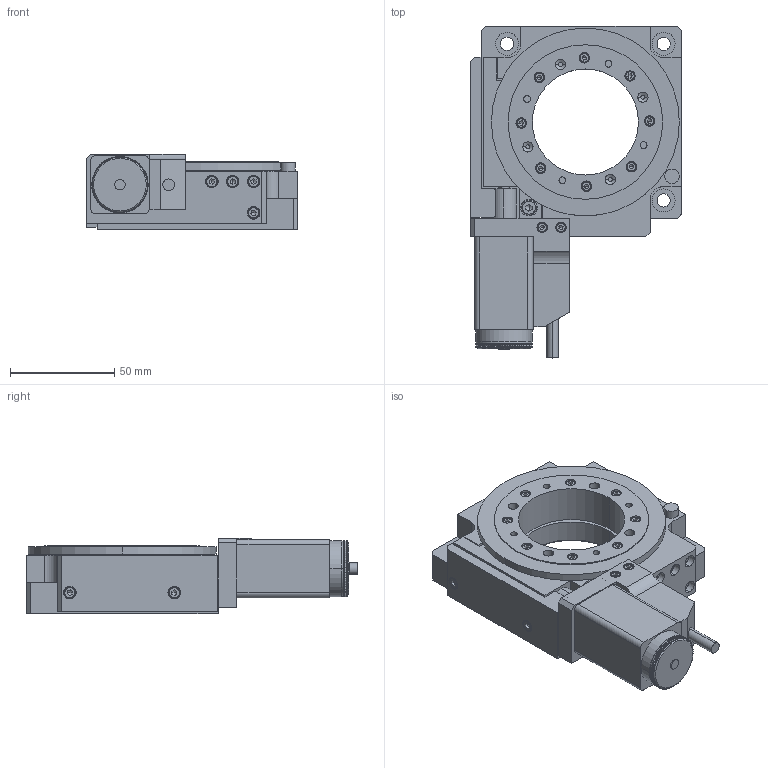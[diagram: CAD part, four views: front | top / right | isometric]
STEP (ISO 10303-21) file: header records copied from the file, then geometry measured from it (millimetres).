
FILE_DESCRIPTION (( 'STEP AP203' ), '1' );
FILE_NAME ('8MR190-2-28.STEP', '2009-01-30T20:11:02', ( 'Darius' ), ( '' ), 'SwSTEP 2.0', 'SolidWorks 2003240', '' );
FILE_SCHEMA (( 'CONFIG_CONTROL_DESIGN' ));
Products named in the file (1): 8MR190-2-28
Bounding box: 101 x 159 x 36 mm (x, y, z)
Volume: 265670.7 mm3; surface area: 70400.5 mm2
Topology: 1 solids, 36 shells, 1458 faces, 3753 edges, 2426 vertices
Faces by surface type: cylinder 702, plane 633, cone 73, bspline 50
Entity records: 47076 total; most frequent: CARTESIAN_POINT 11509, DIRECTION 7544, ORIENTED_EDGE 7422, EDGE_CURVE 3711, AXIS2_PLACEMENT_3D 2923, VERTEX_POINT 2426, LINE 1698, VECTOR 1698
